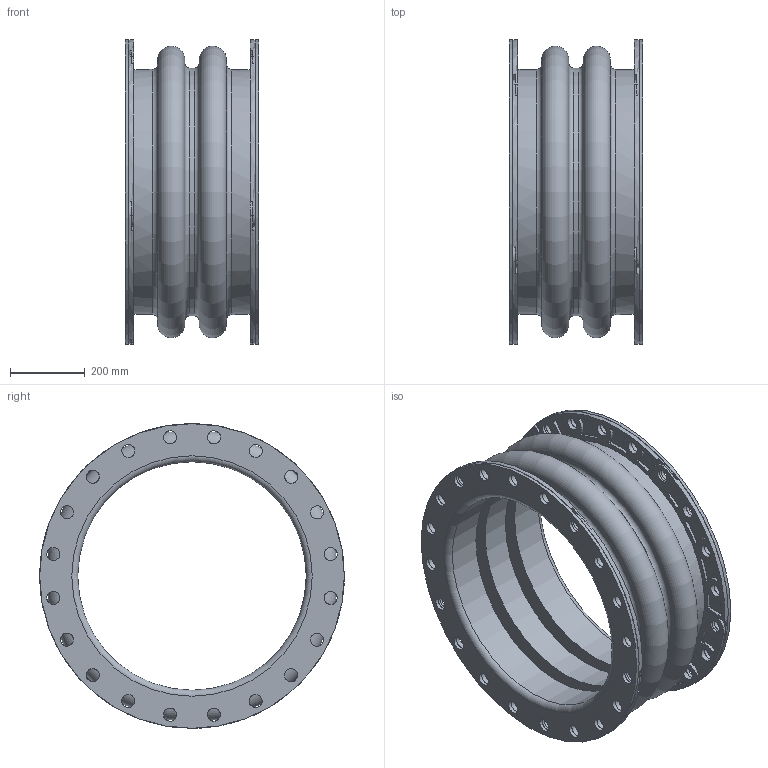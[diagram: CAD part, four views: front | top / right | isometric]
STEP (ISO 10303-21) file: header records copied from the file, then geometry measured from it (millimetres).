
FILE_DESCRIPTION(/* description */ (''),/* implementation_level */ '2;1');
FILE_NAME(/* name */ 'C:\001_Work\Designs\Mercer2014\MQInventor2014\RajR\500 Style\502\STP\502 24IDx14FF.stp',/* time_stamp */ '2016-03-16T15:20:15-04:00',/* author */ ('mquog'),/* organization */ (''),/* preprocessor_version */ 'ST-DEVELOPER v15.2',/* originating_system */ 'Autodesk Inventor 2014',/* authorisation */ '');
FILE_SCHEMA (('AUTOMOTIVE_DESIGN { 1 0 10303 214 3 1 1 }'));
Length unit declared in the file: centimetre
Products named in the file (1): 502 24IDx14FF
Bounding box: 355.6 x 812.8 x 812.8 mm (x, y, z)
Volume: 31791190.9 mm3; surface area: 3862245 mm2
Topology: 1 solids, 1 shells, 632 faces, 1744 edges, 1156 vertices
Faces by surface type: cylinder 458, plane 144, torus 22, cone 8
Full cylindrical faces by diameter (mm): 34.925 x90, 609.6 x3, 654.05 x2, 660.4 x1, 812.8 x2
Entity records: 21322 total; most frequent: CARTESIAN_POINT 3847, DIRECTION 3846, ORIENTED_EDGE 3220, AXIS2_PLACEMENT_3D 1643, EDGE_CURVE 1610, VERTEX_POINT 1140, CIRCLE 1010, EDGE_LOOP 954
